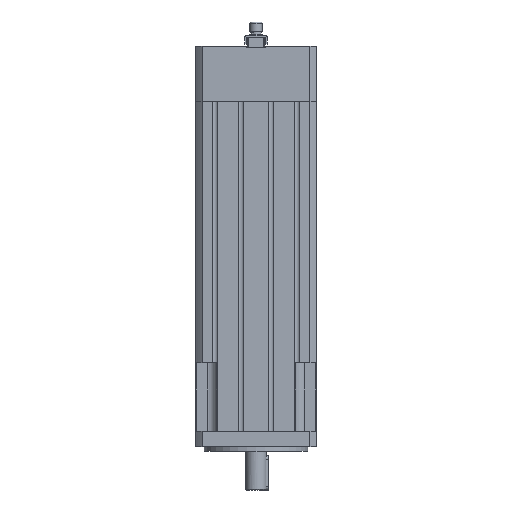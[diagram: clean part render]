
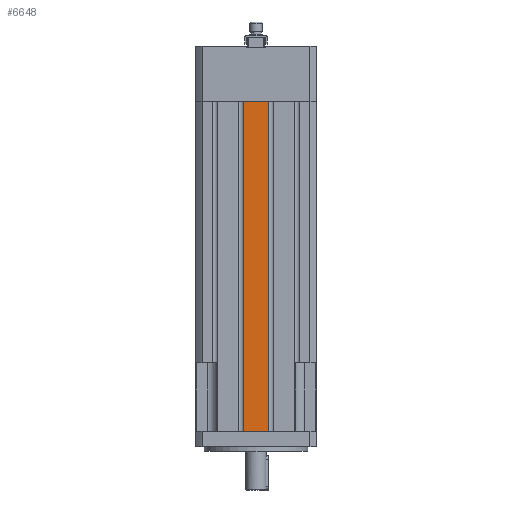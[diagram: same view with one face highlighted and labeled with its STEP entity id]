
A CAD part, front view. The second image highlights one B-rep face of the part: STEP entity #6648.
In plain terms, the highlighted planar face has unit normal (0, -1, 0).
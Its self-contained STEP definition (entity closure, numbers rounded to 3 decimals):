
#278 = CARTESIAN_POINT ( 'NONE',  ( 7.547, -35., 192. ) ) ;
#397 = EDGE_CURVE ( 'NONE', #12999, #5603, #7523, .T. ) ;
#938 = VECTOR ( 'NONE', #2850, 1000. ) ;
#1024 = CARTESIAN_POINT ( 'NONE',  ( -7.547, -35., 192. ) ) ;
#1449 = EDGE_CURVE ( 'NONE', #3821, #3230, #8762, .T. ) ;
#2320 = LINE ( 'NONE', #278, #3981 ) ;
#2850 = DIRECTION ( 'NONE',  ( 0., 0., -1. ) ) ;
#2933 = ORIENTED_EDGE ( 'NONE', *, *, #9880, .F. ) ;
#3230 = VERTEX_POINT ( 'NONE', #9399 ) ;
#3673 = CARTESIAN_POINT ( 'NONE',  ( -7.547, -35., 0. ) ) ;
#3821 = VERTEX_POINT ( 'NONE', #11654 ) ;
#3915 = VECTOR ( 'NONE', #11995, 1000. ) ;
#3981 = VECTOR ( 'NONE', #8542, 1000. ) ;
#4331 = DIRECTION ( 'NONE',  ( 1., 0., 0. ) ) ;
#4408 = CARTESIAN_POINT ( 'NONE',  ( -7.547, -35., 192. ) ) ;
#5603 = VERTEX_POINT ( 'NONE', #11464 ) ;
#6648 = ADVANCED_FACE ( 'NONE', ( #7033 ), #8986, .F. ) ;
#7016 = AXIS2_PLACEMENT_3D ( 'NONE', #11093, #13114, #7975 ) ;
#7033 = FACE_OUTER_BOUND ( 'NONE', #9154, .T. ) ;
#7523 = LINE ( 'NONE', #4408, #11020 ) ;
#7975 = DIRECTION ( 'NONE',  ( 0., 0., 1. ) ) ;
#8325 = CARTESIAN_POINT ( 'NONE',  ( -7.547, -35., 192. ) ) ;
#8542 = DIRECTION ( 'NONE',  ( 0., 0., -1. ) ) ;
#8762 = LINE ( 'NONE', #3673, #3915 ) ;
#8986 = PLANE ( 'NONE',  #7016 ) ;
#9154 = EDGE_LOOP ( 'NONE', ( #10898, #2933, #12459, #9802 ) ) ;
#9399 = CARTESIAN_POINT ( 'NONE',  ( 7.547, -35., 0. ) ) ;
#9802 = ORIENTED_EDGE ( 'NONE', *, *, #11721, .T. ) ;
#9880 = EDGE_CURVE ( 'NONE', #5603, #3230, #2320, .T. ) ;
#10898 = ORIENTED_EDGE ( 'NONE', *, *, #1449, .T. ) ;
#11020 = VECTOR ( 'NONE', #4331, 1000. ) ;
#11093 = CARTESIAN_POINT ( 'NONE',  ( -7.547, -35., 192. ) ) ;
#11464 = CARTESIAN_POINT ( 'NONE',  ( 7.547, -35., 192. ) ) ;
#11654 = CARTESIAN_POINT ( 'NONE',  ( -7.547, -35., 0. ) ) ;
#11721 = EDGE_CURVE ( 'NONE', #12999, #3821, #13125, .T. ) ;
#11995 = DIRECTION ( 'NONE',  ( 1., 0., 0. ) ) ;
#12459 = ORIENTED_EDGE ( 'NONE', *, *, #397, .F. ) ;
#12999 = VERTEX_POINT ( 'NONE', #8325 ) ;
#13114 = DIRECTION ( 'NONE',  ( 0., 1., 0. ) ) ;
#13125 = LINE ( 'NONE', #1024, #938 ) ;
